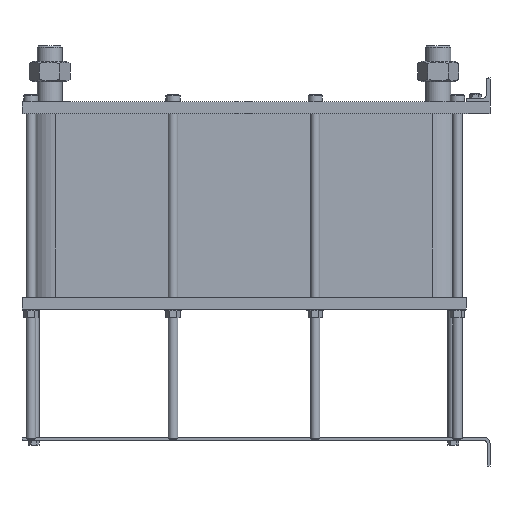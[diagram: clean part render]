
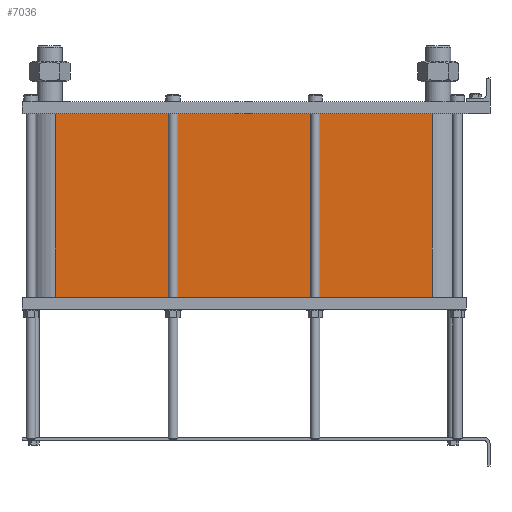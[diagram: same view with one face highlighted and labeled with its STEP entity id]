
A CAD part, left-side view. The second image highlights one B-rep face of the part: STEP entity #7036.
In plain terms, the highlighted planar face has unit normal (-1, 0, 0).
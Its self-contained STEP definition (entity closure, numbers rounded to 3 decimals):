
#999=LINE('',#15640,#1553);
#1031=LINE('',#15723,#1585);
#1032=LINE('',#15726,#1586);
#1033=LINE('',#15727,#1587);
#1553=VECTOR('',#9658,10.);
#1585=VECTOR('',#9736,10.);
#1586=VECTOR('',#9741,10.);
#1587=VECTOR('',#9742,10.);
#2117=FACE_OUTER_BOUND('',#2671,.T.);
#2671=EDGE_LOOP('',(#6246,#6247,#6248,#6249));
#3527=VERTEX_POINT('',#15634);
#3529=VERTEX_POINT('',#15638);
#3556=VERTEX_POINT('',#15720);
#3557=VERTEX_POINT('',#15722);
#4425=EDGE_CURVE('',#3529,#3527,#999,.T.);
#4466=EDGE_CURVE('',#3557,#3556,#1031,.T.);
#4468=EDGE_CURVE('',#3527,#3556,#1032,.T.);
#4469=EDGE_CURVE('',#3557,#3529,#1033,.T.);
#6246=ORIENTED_EDGE('',*,*,#4468,.F.);
#6247=ORIENTED_EDGE('',*,*,#4425,.F.);
#6248=ORIENTED_EDGE('',*,*,#4469,.F.);
#6249=ORIENTED_EDGE('',*,*,#4466,.T.);
#6608=PLANE('',#7812);
#7036=ADVANCED_FACE('',(#2117),#6608,.T.);
#7812=AXIS2_PLACEMENT_3D('',#15725,#9739,#9740);
#9658=DIRECTION('',(0.,0.,-1.));
#9736=DIRECTION('',(0.,0.,-1.));
#9739=DIRECTION('center_axis',(-1.,0.,0.));
#9740=DIRECTION('ref_axis',(0.,1.,0.));
#9741=DIRECTION('',(0.,1.,0.));
#9742=DIRECTION('',(0.,-1.,0.));
#15634=CARTESIAN_POINT('',(-72.,97.5,-310.));
#15638=CARTESIAN_POINT('',(-72.,97.5,0.));
#15640=CARTESIAN_POINT('',(-72.,97.5,0.));
#15720=CARTESIAN_POINT('',(-72.,733.5,-310.));
#15722=CARTESIAN_POINT('',(-72.,733.5,0.));
#15723=CARTESIAN_POINT('',(-72.,733.5,0.));
#15725=CARTESIAN_POINT('Origin',(-72.,97.5,0.));
#15726=CARTESIAN_POINT('',(-72.,256.5,-310.));
#15727=CARTESIAN_POINT('',(-72.,733.5,0.));
